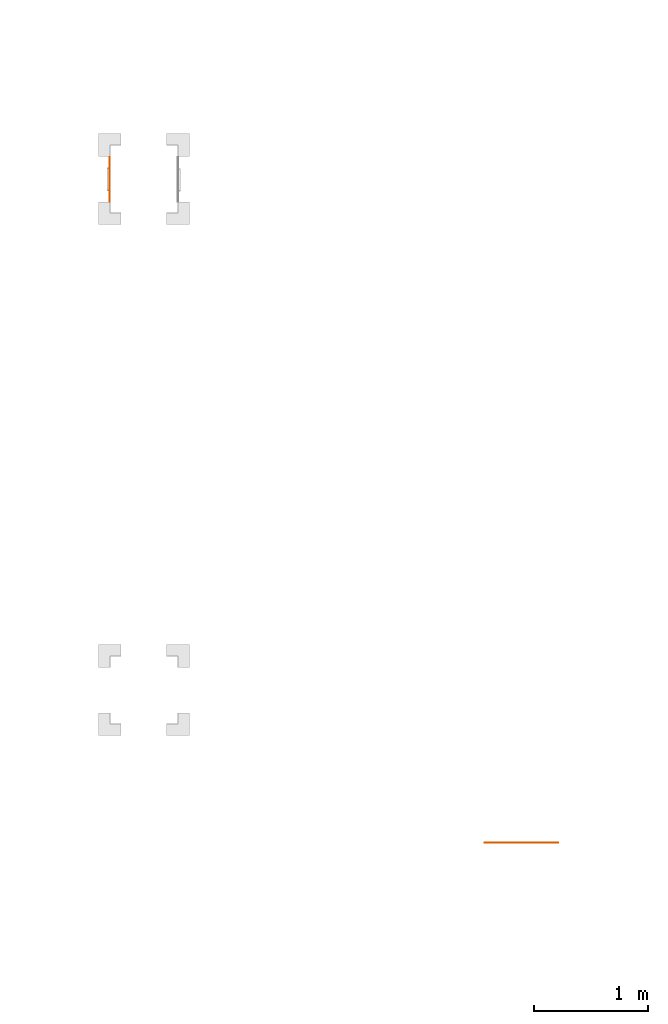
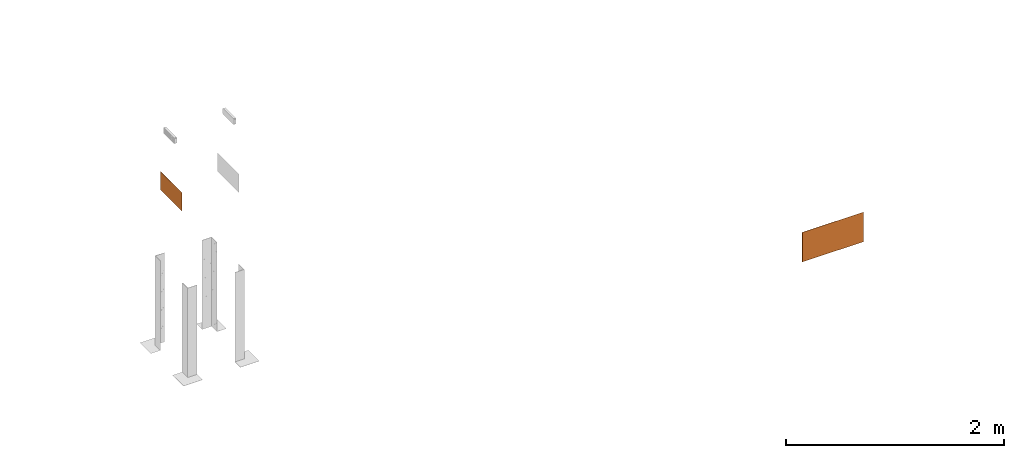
# One storey, part 52 of 119: 2 proxies.
"""IFC2X3 building model written with IfcOpenShell, lengths in metres."""

from ifc_helpers import new_model, entity, si_unit, converted_unit, derived_unit, direction, frame, frame_2d, origin, origin_2d_with_axis, place, context, subcontext, project, spatial, polyline, circle_curve, parameter, trimmed, segment, composite_curve, rectangle, outline, extrude, source, transform, mapped, material, material_list, type_object, type_shapes, element, save


model = new_model("IFC2X3")

# Units and contexts
model_context = context("Model", 3, precision=1e-05, world=origin(), true_north=direction((6.12303176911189e-17, 1.0)))
body_context = subcontext(model_context, "Body", "Model", "MODEL_VIEW")
ifc_project = project(units=[si_unit("LENGTHUNIT", "METRE"), si_unit("AREAUNIT", "SQUARE_METRE"), si_unit("VOLUMEUNIT", "CUBIC_METRE"), converted_unit("PLANEANGLEUNIT", "DEGREE", entity("IfcRatioMeasure", 0.0174532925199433), si_unit("PLANEANGLEUNIT", "RADIAN"), dimensions=[0, 0, 0, 0, 0, 0, 0]), si_unit("MASSUNIT", "GRAM", prefix="KILO"), derived_unit("MASSDENSITYUNIT", [(si_unit("MASSUNIT", "GRAM", prefix="KILO"), 1), (si_unit("LENGTHUNIT", "METRE"), -3)]), derived_unit("MOMENTOFINERTIAUNIT", [(si_unit("LENGTHUNIT", "METRE"), 4)]), si_unit("TIMEUNIT", "SECOND"), si_unit("FREQUENCYUNIT", "HERTZ"), si_unit("THERMODYNAMICTEMPERATUREUNIT", "DEGREE_CELSIUS"), derived_unit("THERMALTRANSMITTANCEUNIT", [(si_unit("MASSUNIT", "GRAM", prefix="KILO"), 1), (si_unit("THERMODYNAMICTEMPERATUREUNIT", "KELVIN"), -1), (si_unit("TIMEUNIT", "SECOND"), -3)]), derived_unit("VOLUMETRICFLOWRATEUNIT", [(si_unit("LENGTHUNIT", "METRE"), 3), (si_unit("TIMEUNIT", "SECOND"), -1)]), si_unit("ELECTRICCURRENTUNIT", "AMPERE"), si_unit("ELECTRICVOLTAGEUNIT", "VOLT"), si_unit("POWERUNIT", "WATT"), si_unit("FORCEUNIT", "NEWTON", prefix="KILO"), si_unit("ILLUMINANCEUNIT", "LUX"), si_unit("LUMINOUSFLUXUNIT", "LUMEN"), si_unit("LUMINOUSINTENSITYUNIT", "CANDELA"), derived_unit("USERDEFINED", [(si_unit("MASSUNIT", "GRAM", prefix="KILO"), -1), (si_unit("LENGTHUNIT", "METRE"), -2), (si_unit("TIMEUNIT", "SECOND"), 3), (si_unit("LUMINOUSFLUXUNIT", "LUMEN"), 1)]), derived_unit("LINEARVELOCITYUNIT", [(si_unit("LENGTHUNIT", "METRE"), 1), (si_unit("TIMEUNIT", "SECOND"), -1)]), si_unit("PRESSUREUNIT", "PASCAL"), derived_unit("USERDEFINED", [(si_unit("LENGTHUNIT", "METRE"), -2), (si_unit("MASSUNIT", "GRAM", prefix="KILO"), 1), (si_unit("TIMEUNIT", "SECOND"), -2)]), derived_unit("LINEARFORCEUNIT", [(si_unit("MASSUNIT", "GRAM", prefix="KILO"), 1), (si_unit("LENGTHUNIT", "METRE"), 1), (si_unit("TIMEUNIT", "SECOND"), -2), (si_unit("LENGTHUNIT", "METRE"), -1)]), derived_unit("PLANARFORCEUNIT", [(si_unit("MASSUNIT", "GRAM", prefix="KILO"), 1), (si_unit("LENGTHUNIT", "METRE"), 1), (si_unit("TIMEUNIT", "SECOND"), -2), (si_unit("LENGTHUNIT", "METRE"), -2)])], contexts=[model_context])

# Site, building, storey
site_placement = place(None, origin())
site = spatial("IfcSite", under=ifc_project, at=site_placement, Name="Default", CompositionType="ELEMENT")
building_placement = place(site_placement, origin())
building = spatial("IfcBuilding", under=site, at=building_placement, CompositionType="ELEMENT")
storey_placement = place(building_placement, origin())
storey = spatial("IfcBuildingStorey", under=building, at=storey_placement, Name="PAV. 01 - TÉRREO", CompositionType="ELEMENT", Elevation=0.0)

# Proxies
ifc_material_1 = material(Name="Plastico branco")
ifc_material_2 = material(Name="Plastico Verde")
ifc_material_list_1 = material_list([ifc_material_1, ifc_material_2])
building_element_proxy_type_1 = type_object("IfcBuildingElementProxyType", Name="Sinalização de orientação - S01 - Indicação do sentido da saída de emergência direita:Distância 12m", PredefinedType="NOTDEFINED", material=ifc_material_1)
shared_shape_1 = source(origin(), body_context, "Body", "SweptSolid", [
    extrude(outline(polyline([(0.0124622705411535, 0.0340163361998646), (0.0116069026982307, 0.0335634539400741), (0.0110082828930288, 0.0323153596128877), (0.0106205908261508, 0.0304379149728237), (0.0103980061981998, 0.0280969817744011), (0.0102947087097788, 0.0254584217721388), (0.0102359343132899, 0.0148408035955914), (0.0100952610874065, 0.0101688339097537), (0.00995272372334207, 0.00797089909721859), (0.00974625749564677, 0.00585117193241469), (0.00946401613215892, 0.00379928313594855), (0.00909414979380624, 0.0018048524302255), (0.00861827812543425, -0.000162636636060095), (0.00799797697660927, -0.00219550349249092), (0.00719098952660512, -0.00439788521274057), (0.00615505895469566, -0.0068739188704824), (0.00484792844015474, -0.00972774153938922), (0.00322734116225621, -0.0130634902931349), (-0.00393772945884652, -0.0270036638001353), (0.00911414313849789, -0.0269659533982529), (0.00975353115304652, -0.0269418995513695), (0.0101589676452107, -0.0269097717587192), (0.0104072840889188, -0.0268684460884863), (0.0105753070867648, -0.026816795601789), (0.0107283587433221, -0.0267465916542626), (0.0108956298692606, -0.0266273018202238), (0.0110992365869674, -0.0264240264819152), (0.0113612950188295, -0.02610186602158), (0.0117039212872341, -0.02562592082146), (0.0121492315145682, -0.0249612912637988), (0.0134363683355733, -0.022926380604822), (0.0220622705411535, -0.00866366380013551), (0.0231418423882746, -0.00739752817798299), (0.024244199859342, -0.00641124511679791), (0.0253551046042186, -0.00568750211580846), (0.026460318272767, -0.0052089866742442), (0.0275456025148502, -0.00495838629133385), (0.0285967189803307, -0.00491838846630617), (0.0295994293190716, -0.00507168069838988), (0.0305394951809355, -0.00540095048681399), (0.0314026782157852, -0.00588888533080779), (0.0321747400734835, -0.00651817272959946), (0.0328414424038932, -0.0072715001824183), (0.033388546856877, -0.00813155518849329), (0.0338018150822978, -0.00908102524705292), (0.0340670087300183, -0.0101025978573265), (0.0341698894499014, -0.0111789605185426), (0.0340962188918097, -0.0122928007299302), (0.0338317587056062, -0.0134268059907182), (0.0333622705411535, -0.0145636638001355), (0.027258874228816, -0.0250738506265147), (0.0231922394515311, -0.0317577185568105), (0.020455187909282, -0.0355759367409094), (0.0183405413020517, -0.0374891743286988), (0.0161486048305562, -0.0384492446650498), (0.0134863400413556, -0.0390450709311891), (0.0103684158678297, -0.0393831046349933), (0.00683771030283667, -0.0395364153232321), (-0.0223273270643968, -0.0395794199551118), (-0.0254276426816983, -0.0395207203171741), (-0.0281392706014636, -0.0392326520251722), (-0.0306250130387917, -0.0385308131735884), (-0.0330476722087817, -0.0372308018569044), (-0.0355700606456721, -0.0351482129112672), (-0.0383972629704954, -0.0320852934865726), (-0.0418729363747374, -0.0278005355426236), (-0.0522577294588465, -0.0145636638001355), (-0.0701177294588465, -0.0145636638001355), (-0.0701177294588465, -0.0855036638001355), (0.0426422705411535, -0.0855036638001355), (0.0426422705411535, 0.0290963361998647), (0.0481022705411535, 0.0290963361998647), (0.0680622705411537, 0.0537563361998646), (0.0426422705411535, 0.0537563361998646), (0.0426422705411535, 0.0764363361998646), (0.0551222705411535, 0.0891363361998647), (-0.0240977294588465, 0.0891363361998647), (-0.0371577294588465, 0.0764363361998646), (-0.0542977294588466, 0.0764363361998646), (-0.039344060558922, 0.0891363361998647), (-0.0579777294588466, 0.0891363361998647), (-0.0701177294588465, 0.0764363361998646), (-0.0701177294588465, -0.00182366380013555), (-0.0500921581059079, -0.00182052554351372), (-0.048376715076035, -0.00187323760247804), (-0.0469973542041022, -0.00203451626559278), (-0.0458400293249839, -0.00235707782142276), (-0.0447906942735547, -0.00289363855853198), (-0.0437353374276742, -0.0036968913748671), (-0.0425823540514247, -0.00480435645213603), (-0.0413011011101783, -0.00621227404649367), (-0.0398712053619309, -0.00790993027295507), (-0.0322577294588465, -0.0173836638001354), (-0.0217377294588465, 0.00417633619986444), (-0.0542977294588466, 0.0709363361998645), (-0.0371577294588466, 0.0709363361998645), (-0.00639772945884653, 0.0127763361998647), (-0.00393772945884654, 0.0340163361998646), (-0.00373167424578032, 0.0366224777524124), (-0.00346846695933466, 0.0389264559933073), (-0.00310194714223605, 0.0409426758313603), (-0.00258595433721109, 0.0426855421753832), (-0.00187432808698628, 0.0441694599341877), (-0.000920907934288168, 0.0454088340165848), (0.000320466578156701, 0.0464180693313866), (0.00189595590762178, 0.0472115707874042), (0.00385172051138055, 0.0478037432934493), (0.00623392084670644, 0.0482089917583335), (0.00908871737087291, 0.0484417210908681), (0.0124622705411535, 0.0485163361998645), (0.0551222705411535, 0.0485163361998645), (0.0426422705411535, 0.0340163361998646), (0.0124622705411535, 0.0340163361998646)]), holes=[composite_curve([segment(trimmed(circle_curve(frame_2d((-0.0288977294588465, -0.0559436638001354), x_axis=(-1.0, 0.0)), 0.0134), [parameter(180.0)], [parameter(360.0)], True, "PARAMETER"), False, "CONTINUOUS"), segment(trimmed(circle_curve(frame_2d((-0.0288977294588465, -0.0559436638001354), x_axis=(-1.0, 0.0)), 0.0134), [parameter(2.03555499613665e-13)], [parameter(180.0)], True, "PARAMETER"), False, "CONTINUOUS")], self_intersect=False)]), frame((-0.112957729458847, -0.00110000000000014, 1.90431633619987), z_axis=(0.0, -1.0, 0.0), x_axis=(-1.0, 0.0, 0.0)), (0.0, 0.0, -1.0), 0.0011),
    extrude(outline(polyline([(-0.102500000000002, -0.197500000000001), (0.102500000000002, -0.197500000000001), (0.102500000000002, 0.197500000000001), (-0.102500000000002, 0.197500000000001), (-0.102500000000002, -0.197500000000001)]), holes=[polyline([(-0.0950000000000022, -0.190000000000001), (-0.0950000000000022, 0.189999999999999), (0.0949999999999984, 0.189999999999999), (0.0949999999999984, -0.190000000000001), (-0.0950000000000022, -0.190000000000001)])]), frame((0.0, -0.0011, 1.9025), z_axis=(0.0, 1.0, 0.0), x_axis=(0.0, 0.0, -1.0)), (0.0, 0.0, 1.0), 0.0011),
    extrude(rectangle(XDim=0.001, YDim=0.38, at=origin_2d_with_axis()), frame((0.0, -0.0005, 1.8075), z_axis=(0.0, 0.0, 1.0), x_axis=(0.0, 1.0, 0.0)), (0.0, 0.0, 1.0), 0.190000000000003),
    extrude(outline(polyline([(-0.0165808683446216, -0.0648778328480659), (0.0648778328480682, -0.0648778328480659), (0.0648778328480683, 0.016580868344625), (0.0289709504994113, 0.0524877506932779), (0.0289709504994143, -0.00190290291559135), (-0.0467319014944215, 0.073799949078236), (-0.0737999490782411, 0.0467319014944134), (0.00190290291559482, -0.0289709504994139), (-0.0524877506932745, -0.028970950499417), (-0.0165808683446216, -0.0648778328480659)])), frame((0.0852288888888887, -0.0011, 1.9025), z_axis=(0.0, 1.0, 0.0), x_axis=(0.707106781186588, 0.0, -0.707106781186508)), (0.0, 0.0, 1.0), 0.0011),
])
type_shapes(building_element_proxy_type_1, [shared_shape_1])
proxy_1_placement = place(storey_placement, frame((46.3738248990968, 0.425057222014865, 0.0), z_axis=(0.0, 0.0, 1.0), x_axis=(0.0, -1.0, 0.0)))
element("IfcBuildingElementProxy", 1, at=proxy_1_placement, inside=storey, type_object=building_element_proxy_type_1, material=ifc_material_list_1, Name="Sinalização de orientação - S01 - Indicação do sentido da saída de emergência direita:Distância 12m", ObjectType="Sinalização de orientação - S01 - Indicação do sentido da saída de emergência direita:Distância 12m", context=body_context, shape_type="MappedRepresentation", body=[
    mapped(shared_shape_1, transform((0.0, 0.0, 0.0), scale=1.0)),
])
ifc_material_list_2 = material_list([ifc_material_1, ifc_material_2])
building_element_proxy_type_2 = type_object("IfcBuildingElementProxyType", Name="Sinalização de orientação - S12 - Saída de emergência:Distância 20m", PredefinedType="NOTDEFINED", material=ifc_material_1)
shared_shape_2 = source(origin(), body_context, "Body", "SweptSolid", [
    extrude(outline(polyline([(0.0376954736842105, -0.0454956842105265), (0.0705927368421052, -0.0454956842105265), (0.0183030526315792, 0.105552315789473), (-0.0183529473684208, 0.105552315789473), (-0.0714076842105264, -0.0454956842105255), (-0.0368472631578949, -0.0454956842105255), (-0.027200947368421, -0.0145609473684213), (0.0272175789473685, -0.0145609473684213), (0.0376954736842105, -0.0454956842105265)]), holes=[polyline([(-0.0183529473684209, 0.0115506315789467), (0.000141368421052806, 0.0715241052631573), (0.0183030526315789, 0.0115506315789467), (-0.0183529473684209, 0.0115506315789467)])]), frame((0.227960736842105, -0.0011, 3.63618684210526), z_axis=(0.0, 1.0, 0.0), x_axis=(-1.0, 0.0, 0.0)), (0.0, 0.0, 1.0), 0.0011),
    extrude(outline(polyline([(0.00169642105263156, -0.0153010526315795), (0.0223528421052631, -0.0153010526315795), (0.00329305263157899, 0.0153010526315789), (-0.0273423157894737, 0.0153010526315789), (0.00169642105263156, -0.0153010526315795)])), frame((0.0069519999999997, -0.0011, 3.77250757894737), z_axis=(0.0, 1.0, 0.0), x_axis=(-1.0, 0.0, 0.0)), (0.0, 0.0, 1.0), 0.0011),
    extrude(rectangle(XDim=0.0011, YDim=0.030968, at=origin_2d_with_axis()), frame((-0.00367557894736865, -0.00055, 3.59069115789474), z_axis=(0.0, 0.0, 1.0), x_axis=(0.0, 1.0, 0.0)), (0.0, 0.0, 1.0), 0.151048),
    extrude(outline(polyline([(0.0376247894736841, -0.0454956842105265), (0.0704887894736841, -0.0454956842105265), (0.0182323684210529, 0.105552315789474), (-0.0184568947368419, 0.105552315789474), (-0.0707798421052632, -0.0454956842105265), (-0.0369512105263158, -0.0454956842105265), (-0.0273048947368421, -0.0145609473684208), (0.0271468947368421, -0.0145609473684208), (0.0376247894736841, -0.0454956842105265)]), holes=[polyline([(-0.018456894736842, 0.0115506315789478), (3.74210526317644e-05, 0.0715241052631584), (0.0182323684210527, 0.0115506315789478), (-0.018456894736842, 0.0115506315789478)])]), frame((-0.101049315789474, -0.0011, 3.63618684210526), z_axis=(0.0, 1.0, 0.0), x_axis=(-1.0, 0.0, 0.0)), (0.0, 0.0, 1.0), 0.0011),
    extrude(outline(polyline([(-0.0987312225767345, -0.0692916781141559), (-0.0390903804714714, -0.0692916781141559), (-0.0259090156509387, -0.0690015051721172), (-0.015711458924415, -0.0679295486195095), (-0.00762154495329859, -0.0657736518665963), (-0.000763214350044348, -0.062231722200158), (0.00552600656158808, -0.0571304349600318), (0.0112471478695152, -0.0506952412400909), (0.0162735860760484, -0.0432285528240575), (0.0204786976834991, -0.0350327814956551), (0.0237358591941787, -0.0264103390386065), (0.0259649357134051, -0.0176406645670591), (0.0272763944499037, -0.00890900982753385), (0.0278295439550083, -0.000376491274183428), (0.0277836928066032, 0.00779577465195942), (0.0272981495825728, 0.0154466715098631), (0.0265127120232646, 0.0224446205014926), (0.0253600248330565, 0.0289716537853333), (0.0236478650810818, 0.0353988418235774), (0.0211822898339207, 0.0420998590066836), (0.017769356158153, 0.0494483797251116), (0.0131642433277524, 0.0577443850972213), (0.00648808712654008, 0.0663694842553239), (-0.00356821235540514, 0.0740821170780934), (-0.0183219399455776, 0.0796288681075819), (-0.0390903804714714, 0.0817563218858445), (-0.0987312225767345, 0.0817563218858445), (-0.0987312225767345, -0.0692916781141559)]), holes=[polyline([(-0.0677299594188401, 0.0556447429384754), (-0.0390903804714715, 0.0556447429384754), (-0.0307359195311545, 0.0546713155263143), (-0.0238840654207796, 0.0520574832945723), (-0.0183755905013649, 0.0482629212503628), (-0.0140512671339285, 0.0437473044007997), (-0.0107521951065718, 0.0389334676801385), (-0.00832187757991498, 0.033973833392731), (-0.0066048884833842, 0.0289003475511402), (-0.00544580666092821, 0.0237444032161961), (-0.00468921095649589, 0.0185373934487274), (-0.00418569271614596, 0.0133093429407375), (-0.00388873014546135, 0.00806686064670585), (-0.00383818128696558, 0.00279689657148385), (-0.00407658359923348, -0.00251420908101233), (-0.00464647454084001, -0.00788011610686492), (-0.00559039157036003, -0.0133144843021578), (-0.00695529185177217, -0.0188075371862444), (-0.00881691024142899, -0.0241968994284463), (-0.0112625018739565, -0.0292591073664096), (-0.0143793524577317, -0.0337705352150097), (-0.0182547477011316, -0.037507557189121), (-0.0229507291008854, -0.0402659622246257), (-0.0282499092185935, -0.0420564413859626), (-0.0337610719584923, -0.0430233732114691), (-0.0390903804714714, -0.0433131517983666), (-0.0677299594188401, -0.0433131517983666), (-0.0677299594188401, 0.0556447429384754)])]), frame((0.133025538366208, -0.0011, 3.67244747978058), z_axis=(0.0, 1.0, 0.0), x_axis=(1.0, 0.0, 0.0)), (0.0, 0.0, 1.0), 0.0011),
    extrude(outline(polyline([(-0.0574831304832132, 0.0312104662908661), (-0.0278789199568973, 0.0312104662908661), (-0.0266149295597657, 0.036124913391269), (-0.0251060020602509, 0.040204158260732), (-0.0233574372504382, 0.043538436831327), (-0.0213745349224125, 0.0462179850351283), (-0.0191625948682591, 0.048333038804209), (-0.0167269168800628, 0.0499738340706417), (-0.0140728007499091, 0.0512306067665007), (-0.0112055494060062, 0.0521935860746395), (-0.00813940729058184, 0.0529337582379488), (-0.00491714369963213, 0.0534607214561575), (-0.00158720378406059, 0.0537718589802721), (0.00180196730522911, 0.0538645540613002), (0.00520192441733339, 0.0537361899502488), (0.00856422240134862, 0.0533841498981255), (0.0118404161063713, 0.0528058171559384), (0.0149820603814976, 0.0519985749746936), (0.0179380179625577, 0.0509495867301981), (0.0206451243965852, 0.0496003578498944), (0.0230368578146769, 0.0478796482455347), (0.0250466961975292, 0.0457162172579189), (0.0266081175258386, 0.043038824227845), (0.027654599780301, 0.039776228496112), (0.0281196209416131, 0.0358571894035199), (0.027936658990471, 0.0312104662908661), (0.0270808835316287, 0.0286066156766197), (0.0255323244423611, 0.0263499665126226), (0.0233445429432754, 0.0243963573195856), (0.020571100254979, 0.0227016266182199), (0.0172655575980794, 0.0212216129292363), (0.0134814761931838, 0.0199121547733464), (0.00927241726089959, 0.0187290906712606), (0.00469194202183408, 0.0176282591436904), (-0.0162655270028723, 0.0131619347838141), (-0.021854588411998, 0.0117970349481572), (-0.0274211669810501, 0.0102287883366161), (-0.0328768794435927, 0.00840313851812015), (-0.0381333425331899, 0.00626602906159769), (-0.0431021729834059, 0.00376340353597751), (-0.047694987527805, 0.000841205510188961), (-0.051823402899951, -0.00255462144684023), (-0.0553990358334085, -0.00647813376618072), (-0.0583335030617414, -0.0109833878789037), (-0.0605384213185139, -0.0161244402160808), (-0.0619254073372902, -0.0219553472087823), (-0.0624060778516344, -0.0285301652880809), (-0.0614580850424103, -0.0401353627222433), (-0.0587034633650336, -0.050021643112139), (-0.0542724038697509, -0.0582833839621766), (-0.048295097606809, -0.0650149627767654), (-0.0409017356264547, -0.0703107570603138), (-0.0322225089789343, -0.0742651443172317), (-0.0223876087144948, -0.0769725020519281), (-0.0115272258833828, -0.0785272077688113), (0.00022844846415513, -0.0790236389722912), (0.0105685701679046, -0.0784476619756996), (0.0204533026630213, -0.0766900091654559), (0.0296795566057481, -0.0737177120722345), (0.0380442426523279, -0.0694978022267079), (0.0453442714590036, -0.0639973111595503), (0.0513765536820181, -0.0571832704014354), (0.0559379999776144, -0.0490227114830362), (0.0588255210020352, -0.0394826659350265), (0.0598360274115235, -0.0285301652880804), (0.0296663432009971, -0.0285301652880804), (0.0292112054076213, -0.0336041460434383), (0.0279224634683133, -0.0379372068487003), (0.0259151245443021, -0.0415888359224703), (0.023304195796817, -0.0446185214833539), (0.0202046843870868, -0.047085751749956), (0.0167315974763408, -0.0490500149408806), (0.0129999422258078, -0.0505707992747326), (0.00912472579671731, -0.0517075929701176), (0.00521918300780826, -0.0525188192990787), (0.00135318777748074, -0.0530368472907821), (-0.00244824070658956, -0.0532670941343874), (-0.00616215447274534, -0.053213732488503), (-0.00976560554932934, -0.0528809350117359), (-0.0132356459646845, -0.0522728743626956), (-0.0165493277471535, -0.0513937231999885), (-0.0196837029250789, -0.0502476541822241), (-0.0226158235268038, -0.0488388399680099), (-0.0253148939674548, -0.0471644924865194), (-0.0277033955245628, -0.0451803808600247), (-0.029686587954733, -0.0428269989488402), (-0.0311697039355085, -0.0400448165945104), (-0.0320579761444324, -0.036774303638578), (-0.0322566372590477, -0.0329559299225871), (-0.0316709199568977, -0.0285301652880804), (-0.0303724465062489, -0.0255638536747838), (-0.0278577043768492, -0.0229636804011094), (-0.0243560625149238, -0.02069431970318), (-0.0200968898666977, -0.0187204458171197), (-0.0153095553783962, -0.0170067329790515), (-0.0102234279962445, -0.0155178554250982), (-0.00506787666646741, -0.014218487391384), (0.0142120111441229, -0.010006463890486), (0.0187157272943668, -0.00893032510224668), (0.0231174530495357, -0.0077357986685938), (0.0274294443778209, -0.00636831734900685), (0.031663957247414, -0.00477331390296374), (0.0358332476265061, -0.00289622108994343), (0.0399331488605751, -0.000678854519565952), (0.0438729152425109, 0.00195603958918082), (0.047533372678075, 0.00509197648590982), (0.0507953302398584, 0.00881247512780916), (0.0535395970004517, 0.0132010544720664), (0.0556469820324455, 0.0183412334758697), (0.0569982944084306, 0.024316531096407), (0.0574743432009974, 0.0312104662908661), (0.0568973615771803, 0.0401466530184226), (0.0551054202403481, 0.048505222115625), (0.0519995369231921, 0.0561595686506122), (0.0474807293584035, 0.0629830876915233), (0.0414500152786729, 0.0688491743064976), (0.0338084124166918, 0.0736312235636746), (0.024456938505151, 0.0772026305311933), (0.013296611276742, 0.0794367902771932), (0.0002284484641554, 0.0802070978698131), (-0.0142842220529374, 0.0789872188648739), (-0.0269292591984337, 0.075473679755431), (-0.0375736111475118, 0.0698867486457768), (-0.0460842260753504, 0.0624466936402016), (-0.0523280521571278, 0.0533737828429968), (-0.0561720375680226, 0.0428882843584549), (-0.0574831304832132, 0.0312104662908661)])), frame((-0.239532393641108, -0.0011, 3.66565669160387), z_axis=(0.0, 1.0, 0.0), x_axis=(-1.0, 0.0, 0.0)), (0.0, 0.0, 1.0), 0.0011),
    extrude(rectangle(XDim=0.001, YDim=0.632, at=origin_2d_with_axis()), frame((0.0, -0.0005, 3.5075), z_axis=(0.0, 0.0, 1.0), x_axis=(0.0, 1.0, 0.0)), (0.0, 0.0, 1.0), 0.316000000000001),
    extrude(outline(polyline([(-0.165500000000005, -0.323499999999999), (0.165500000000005, -0.323499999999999), (0.165500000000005, 0.323499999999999), (-0.165500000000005, 0.323499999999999), (-0.165500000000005, -0.323499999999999)]), holes=[polyline([(-0.157999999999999, -0.315999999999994), (-0.157999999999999, 0.316000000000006), (0.158000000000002, 0.316000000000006), (0.158000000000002, -0.315999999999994), (-0.157999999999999, -0.315999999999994)])]), frame((0.0, -0.001, 3.66550000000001), z_axis=(0.0, 1.0, 0.0), x_axis=(0.0, 0.0, -1.0)), (0.0, 0.0, 1.0), 0.001),
])
type_shapes(building_element_proxy_type_2, [shared_shape_2])
proxy_2_placement = place(storey_placement, frame((49.9993203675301, -5.41661806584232, 0.0), z_axis=(0.0, 0.0, 1.0), x_axis=(-1.0, 0.0, 0.0)))
element("IfcBuildingElementProxy", 2, at=proxy_2_placement, inside=storey, type_object=building_element_proxy_type_2, material=ifc_material_list_2, Name="Sinalização de orientação - S12 - Saída de emergência:Distância 20m", ObjectType="Sinalização de orientação - S12 - Saída de emergência:Distância 20m", context=body_context, shape_type="MappedRepresentation", body=[
    mapped(shared_shape_2, transform((0.0, 0.0, 0.0), scale=1.0)),
])

save(model, "model.ifc")
